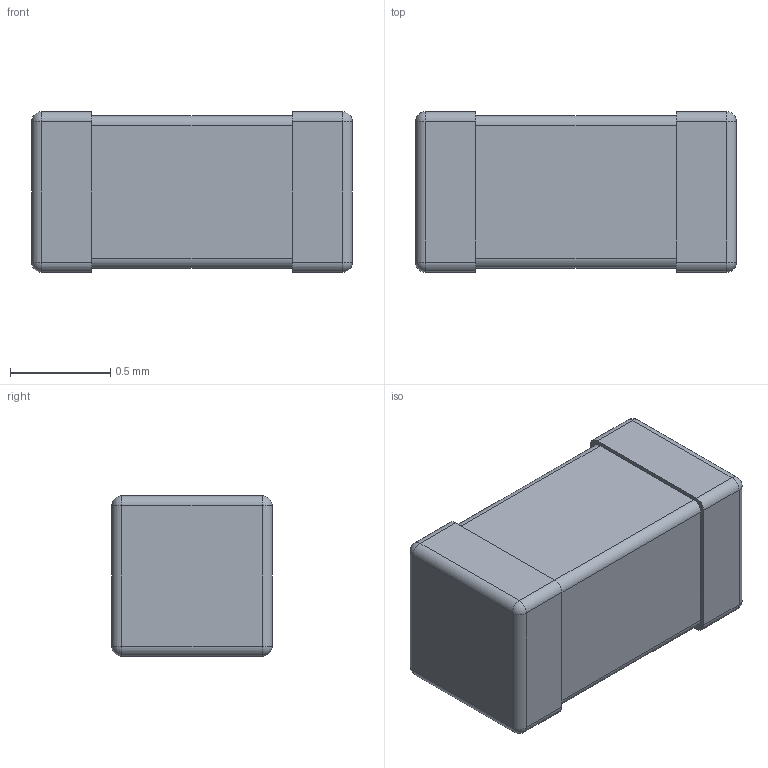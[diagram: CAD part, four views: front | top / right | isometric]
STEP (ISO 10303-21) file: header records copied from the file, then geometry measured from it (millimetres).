
FILE_DESCRIPTION (( 'STEP AP214' ), '1' );
FILE_NAME ('CGA3E3X7R1H105K080AB.STEP', '2025-07-18T13:13:28', ( '' ), ( '' ), 'SwSTEP 2.0', 'SolidWorks 2024', '' );
FILE_SCHEMA (( 'AUTOMOTIVE_DESIGN' ));
Length unit declared in the file: millimetre
Products named in the file (1): CGA3E3X7R1H105K080AB
Bounding box: 1.6 x 0.8 x 0.8 mm (x, y, z)
Volume: 1 mm3; surface area: 6.1 mm2
Topology: 1 solids, 1 shells, 44 faces, 104 edges, 56 vertices
Faces by surface type: cylinder 20, plane 16, sphere 8
Entity records: 1299 total; most frequent: DIRECTION 226, CARTESIAN_POINT 197, ORIENTED_EDGE 192, EDGE_CURVE 96, AXIS2_PLACEMENT_3D 85, LINE 56, VERTEX_POINT 56, VECTOR 56
